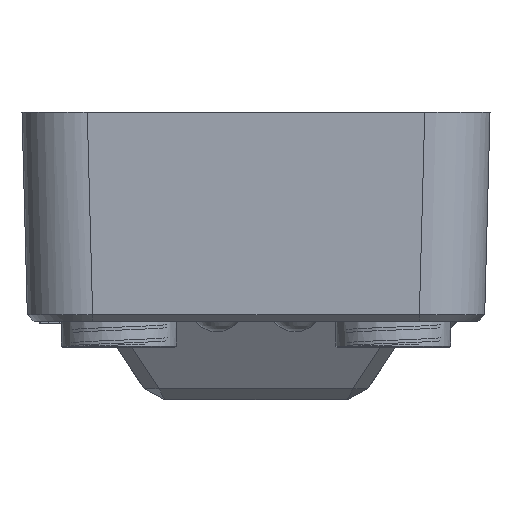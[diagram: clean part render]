
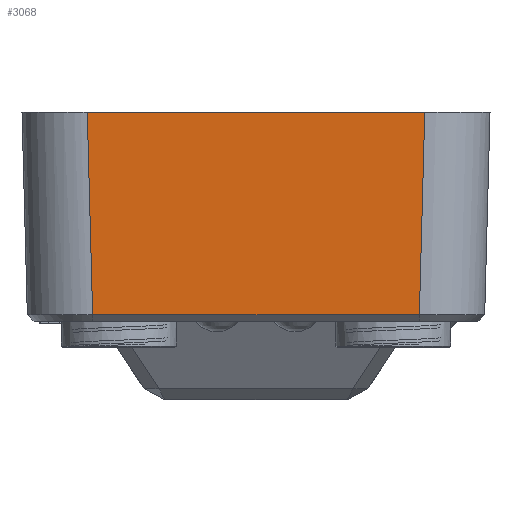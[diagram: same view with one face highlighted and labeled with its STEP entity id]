
A CAD part, left-side view. The second image highlights one B-rep face of the part: STEP entity #3068.
In plain terms, the highlighted planar face has unit normal (-1, 0, -0.026).
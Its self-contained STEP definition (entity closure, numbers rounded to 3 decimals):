
#3068=ADVANCED_FACE('',(#5665),#4632,.T.);
#4632=PLANE('',#26528);
#5665=FACE_OUTER_BOUND('',#6919,.T.);
#6919=EDGE_LOOP('',(#9990,#9991,#9992,#9993));
#9990=ORIENTED_EDGE('',*,*,#18895,.T.);
#9991=ORIENTED_EDGE('',*,*,#18896,.T.);
#9992=ORIENTED_EDGE('',*,*,#18897,.T.);
#9993=ORIENTED_EDGE('',*,*,#18644,.F.);
#16095=VERTEX_POINT('',#36930);
#16096=VERTEX_POINT('',#36932);
#16236=VERTEX_POINT('',#37433);
#16237=VERTEX_POINT('',#37435);
#18644=EDGE_CURVE('',#16095,#16096,#22135,.T.);
#18895=EDGE_CURVE('',#16095,#16236,#22365,.T.);
#18896=EDGE_CURVE('',#16236,#16237,#22366,.T.);
#18897=EDGE_CURVE('',#16237,#16096,#22367,.T.);
#22135=LINE('',#36931,#24397);
#22365=LINE('',#37432,#24627);
#22366=LINE('',#37434,#24628);
#22367=LINE('',#37436,#24629);
#24397=VECTOR('',#29470,1.);
#24627=VECTOR('',#29962,1.);
#24628=VECTOR('',#29963,1.);
#24629=VECTOR('',#29964,1.);
#26528=AXIS2_PLACEMENT_3D('',#37437,#29965,#29966);
#29470=DIRECTION('',(0.,-1.,0.));
#29962=DIRECTION('',(0.026,-0.026,-0.999));
#29963=DIRECTION('',(0.,-1.,0.));
#29964=DIRECTION('',(-0.026,-0.026,0.999));
#29965=DIRECTION('',(-1.,0.,-0.026));
#29966=DIRECTION('',(-0.026,0.,1.));
#36930=CARTESIAN_POINT('',(-3.419,30.421,16.));
#36931=CARTESIAN_POINT('',(-3.419,0.,16.));
#36932=CARTESIAN_POINT('',(-3.419,4.579,16.));
#37432=CARTESIAN_POINT('',(-2.961,29.963,-1.478));
#37433=CARTESIAN_POINT('',(-3.013,30.011,0.513));
#37434=CARTESIAN_POINT('',(-3.013,17.5,0.513));
#37435=CARTESIAN_POINT('',(-3.013,4.989,0.513));
#37436=CARTESIAN_POINT('',(-2.991,5.007,-0.327));
#37437=CARTESIAN_POINT('',(-3.,17.5,0.));
